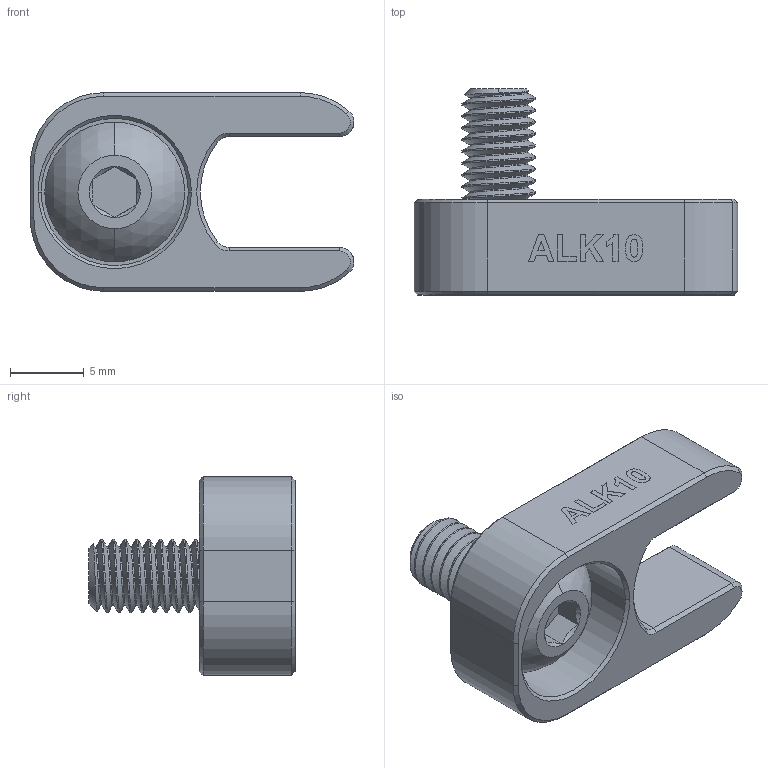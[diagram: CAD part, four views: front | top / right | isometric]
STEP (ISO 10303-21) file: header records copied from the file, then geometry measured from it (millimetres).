
FILE_DESCRIPTION (( 'STEP AP203' ), '1' );
FILE_NAME ('ALK10-Keeper Key.STEP', '2020-12-17T21:36:04', ( '' ), ( '' ), 'SwSTEP 2.0', 'SolidWorks 2020', '' );
FILE_SCHEMA (( 'CONFIG_CONTROL_DESIGN' ));
Length unit declared in the file: inch
Products named in the file (3): ALK10-Keeper Key; ALK10-Keeper Key-2-r1; M5_8X1_ BUTTON-HEAD SOCKET CAP SCREW_91239A224
Assembly tree (2 placements, depth 2):
  ALK10-Keeper Key
    ALK10-Keeper Key-2-r1
    M5_8X1_ BUTTON-HEAD SOCKET CAP SCREW_91239A224
Bounding box: 22 x 14 x 13.5 mm (x, y, z)
Volume: 1242.8 mm3; surface area: 1474.7 mm2
Topology: 2 solids, 2 shells, 188 faces, 477 edges, 303 vertices
Faces by surface type: plane 69, cylinder 65, cone 35, bspline 17, sphere 2
Entity records: 8121 total; most frequent: CARTESIAN_POINT 3670, ORIENTED_EDGE 954, DIRECTION 758, EDGE_CURVE 477, VERTEX_POINT 303, AXIS2_PLACEMENT_3D 254, LINE 250, VECTOR 250
